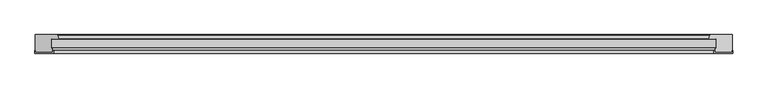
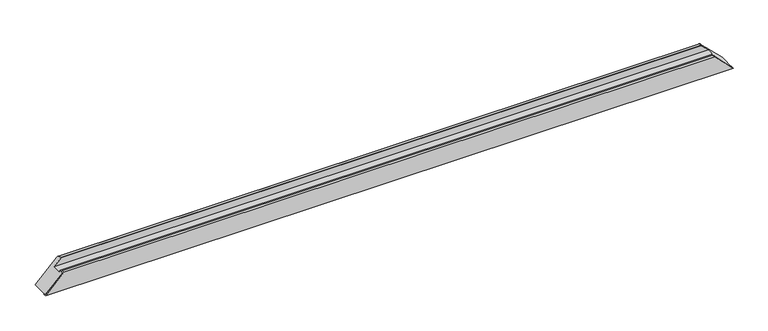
"""IFC4 building model written with IfcOpenShell, lengths in millimetres: proxy geometry, Weiku - Montante - Caixilho 02.2.01.005 : Weiku - Montante - Caixilho 02.2.01.005."""

from ifc_helpers import new_model, si_unit, frame, origin, place, context, project, spatial, ellipse_curve, faceted_brep, source, transform, mapped, element, save
from ifc_brep_helpers import plane_surface, cylinder_surface, advanced_brep


def generic_models_6a717fce(model_context):
    return source(origin(), model_context, "Body", "SolidModel", [
        faceted_brep([(-972.5, -43.5137905, 0.0), (-973.5, -43.5137905, -1.0), (-973.5, -52.0, -1.0), (-921.5, -52.0, 51.0), (-921.5, -43.5137905, 51.0), (-923.5, -43.5137905, 49.0), (-923.5, -50.0, 49.0), (-972.5, -50.0, 0.0), (972.5, -50.0, 0.0), (923.5, -50.0, 49.0), (923.5, -43.5137905, 49.0), (921.5, -43.5137905, 51.0), (921.5, -52.0, 51.0), (973.5, -52.0, -1.0), (973.5, -43.5137905, -1.0), (972.5, -43.5137905, 0.0)], [[[0, 1, 2, 3, 4, 5, 6, 7]], [[8, 9, 10, 11, 12, 13, 14, 15]], [[7, 8, 15, 0]], [[6, 9, 8, 7]], [[5, 10, 9, 6]], [[4, 11, 10, 5]], [[3, 12, 11, 4]], [[2, 13, 12, 3]], [[1, 14, 13, 2]], [[0, 15, 14, 1]]]),
        advanced_brep(
        [(-926.5, -12.5, 46.0), (926.5, -12.5, 46.0), (906.3909676, -12.5, 66.1090324), (-906.3909676, -12.5, 66.1090324), (-926.5, -37.8314286, 46.0), (926.5, -37.8314286, 46.0), (-923.5, -37.027581, 49.0), (923.5, -37.027581, 49.0), (-923.5, -50.0, 49.0), (923.5, -50.0, 49.0), (972.5, -50.0, 0.0), (-972.5, -50.0, 0.0), (-972.5, 0.0, 0.0), (972.5, 0.0, 0.0), (-910.9997332, 0.0, 61.5002668), (910.9997332, 0.0, 61.5002668), (-905.618227, -11.4929448, 66.881773), (905.618227, -11.4929448, 66.881773), (908.1019557, -2.2235429, 64.3980443), (-908.1019557, -2.2235429, 64.3980443)],
        [
            (0, 1),
            (1, 2),
            (2, 3),
            (3, 0),
            (4, 5),
            (5, 1),
            (0, 4),
            (6, 7),
            (7, 5),
            (4, 6),
            (8, 9),
            (9, 7),
            (6, 8),
            (10, 9),
            (8, 11),
            (11, 10),
            (11, 12),
            (12, 13),
            (13, 10),
            (12, 14),
            (14, 15),
            (15, 13),
            (16, 17),
            (17, 18),
            (18, 19),
            (19, 16),
            (3, 16, ellipse_curve(frame((-906.3909676, -11.7, 66.1090324), z_axis=(-0.707106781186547, 0.0, 0.707106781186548), x_axis=(-0.7071067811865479, 0.0, -0.707106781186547)), 1.1313708, 0.8)),
            (19, 14, ellipse_curve(frame((-910.9997332, -3.0, 61.5002668), z_axis=(-0.707106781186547, 0.0, 0.707106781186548), x_axis=(-0.7071067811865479, 0.0, -0.707106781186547)), 4.2426407, 3.0)),
            (15, 18, ellipse_curve(frame((910.9997332, -3.0, 61.5002668), z_axis=(0.7071067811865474, 0.0, 0.7071067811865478), x_axis=(-0.7071067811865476, 0.0, 0.7071067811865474)), 4.2426407, 3.0)),
            (17, 2, ellipse_curve(frame((906.3909676, -11.7, 66.1090324), z_axis=(0.7071067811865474, 0.0, 0.7071067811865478), x_axis=(-0.7071067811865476, 0.0, 0.7071067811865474)), 1.1313708, 0.8)),
        ],
        [
            plane_surface(frame((-972.5, -12.5, 66.1090324), z_axis=(0.0, -1.0, 0.0), x_axis=(1.0, 0.0, 0.0))),
            plane_surface(frame((-972.5, -12.5, 46.0), z_axis=(0.0, 0.0, 1.0), x_axis=(1.0, 0.0, 0.0))),
            plane_surface(frame((-972.5, -37.8314286, 46.0), z_axis=(0.0, 0.9659258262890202, -0.2588190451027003), x_axis=(1.0, 0.0, 0.0))),
            plane_surface(frame((-972.5, -37.027581, 49.0), z_axis=(0.0, 0.0, 1.0), x_axis=(1.0, 0.0, 0.0))),
            plane_surface(frame((-972.5, -50.0, 49.0), z_axis=(0.0, -1.0, 0.0), x_axis=(1.0, 0.0, 0.0))),
            plane_surface(frame((-972.5, -50.0, 0.0), z_axis=(0.0, 0.0, -1.0), x_axis=(1.0, 0.0, 0.0))),
            plane_surface(frame((-972.5, 0.0, 0.0), z_axis=(0.0, 1.0, 0.0), x_axis=(1.0, 0.0, 0.0))),
            plane_surface(frame((-972.5, -2.2235429, 64.3980443), z_axis=(0.0, 0.2588190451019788, 0.9659258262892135), x_axis=(1.0, 0.0, 0.0))),
            plane_surface(frame((-1042.5, 15.0, -70.0), z_axis=(-0.707106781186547, 0.0, 0.707106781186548), x_axis=(0.0, -1.0, 0.0))),
            plane_surface(frame((902.5, 15.0, 70.0), z_axis=(0.7071067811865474, 0.0, 0.7071067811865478), x_axis=(0.0, -1.0, 0.0))),
            cylinder_surface(frame((-972.5, -11.7, 66.1090324), z_axis=(-1.0, 0.0, 0.0), x_axis=(0.0, -1.0, 0.0)), 0.8),
            cylinder_surface(frame((-972.5, -3.0, 61.5002668), z_axis=(-1.0, 0.0, 0.0), x_axis=(0.0, -1.0, 0.0)), 3.0),
        ],
        [
            (0, [[1, 2, 3, 4]]),
            (1, [[5, 6, -1, 7]]),
            (2, [[8, 9, -5, 10]]),
            (3, [[11, 12, -8, 13]]),
            (4, [[14, -11, 15, 16]]),
            (5, [[17, 18, 19, -16]]),
            (6, [[20, 21, 22, -18]]),
            (7, [[23, 24, 25, 26]]),
            (8, [[27, -26, 28, -20, -17, -15, -13, -10, -7, -4]]),
            (9, [[-6, -9, -12, -14, -19, -22, 29, -24, 30, -2]]),
            (10, [[-3, -30, -23, -27]]),
            (11, [[-25, -29, -21, -28]]),
        ],
    ),
    ])


if __name__ == "__main__":
    model = new_model("IFC4")
    model_context = context("Model", 3, world=origin())
    ifc_project = project(units=[si_unit("LENGTHUNIT", "METRE", prefix="MILLI")], contexts=[model_context])
    site = spatial("IfcSite", under=ifc_project)
    building = spatial("IfcBuilding", under=site)
    placement = place(None, origin())
    generic_models_shape = generic_models_6a717fce(model_context)
    element("IfcBuildingElementProxy", 1, Name="Weiku - Montante - Caixilho 02.2.01.005 : Weiku - Montante - Caixilho 02.2.01.005", ObjectType="Weiku - Montante - Caixilho 02.2.01.005 : Weiku - Montante - Caixilho 02.2.01.005", at=placement, inside=building, context=model_context, shape_type="MappedRepresentation", body=[
        mapped(generic_models_shape, transform((0.0, 0.0, 0.0), x_axis=(1.0, 0.0, 0.0), y_axis=(0.0, 1.0, 0.0), z_axis=(0.0, 0.0, 1.0))),
    ])
    save(model, "model.ifc")
